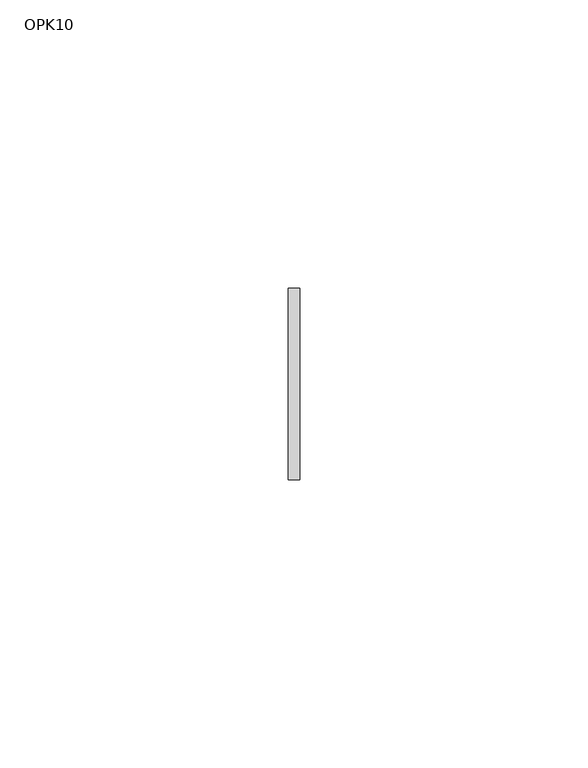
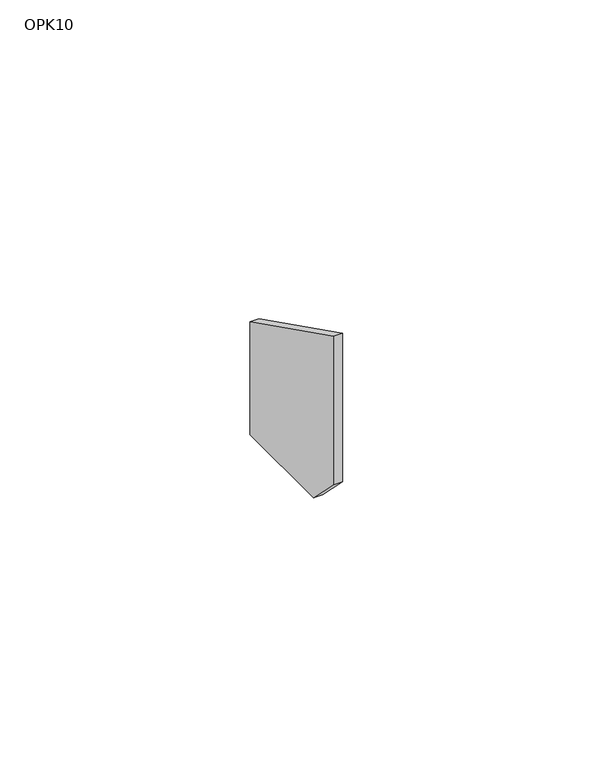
"""IFC4 building model written with IfcOpenShell, lengths in millimetres: proxy geometry, Odbojnik - OPK10 : OPK10."""

from ifc_helpers import new_model, si_unit, frame, origin, place, context, project, spatial, polyline, outline, extrude, source, transform, mapped, element, save


def opk10_a9e293d9(model_context):
    return source(origin(), model_context, "Body", "SweptSolid", [
        extrude(outline(polyline([(-57.8190449, 30.1268075), (-57.8190449, 66.3164298), (-24.5190457, 49.6664297), (-24.5190457, 39.1803622), (-24.5190457, 22.1268077), (-49.8190451, 22.1268077), (-57.8190449, 30.1268075)])), frame((-3.0, 0.0, 0.0), z_axis=(1.0, 0.0, 0.0), x_axis=(0.0, 1.0, 0.0)), (0.0, 0.0, 1.0), 2.0),
    ])


if __name__ == "__main__":
    model = new_model("IFC4")
    model_context = context("Model", 3, world=origin())
    ifc_project = project(units=[si_unit("LENGTHUNIT", "METRE", prefix="MILLI")], contexts=[model_context])
    site = spatial("IfcSite", under=ifc_project)
    building = spatial("IfcBuilding", under=site)
    placement = place(None, origin())
    opk10_shape = opk10_a9e293d9(model_context)
    element("IfcBuildingElementProxy", 1, Name="Odbojnik - OPK10 : OPK10", ObjectType="Odbojnik - OPK10 : OPK10", at=placement, inside=building, context=model_context, shape_type="MappedRepresentation", body=[
        mapped(opk10_shape, transform((0.0, 0.0, 0.0), x_axis=(1.0, 0.0, 0.0), y_axis=(0.0, 1.0, 0.0), z_axis=(0.0, 0.0, 1.0))),
    ])
    save(model, "model.ifc")
